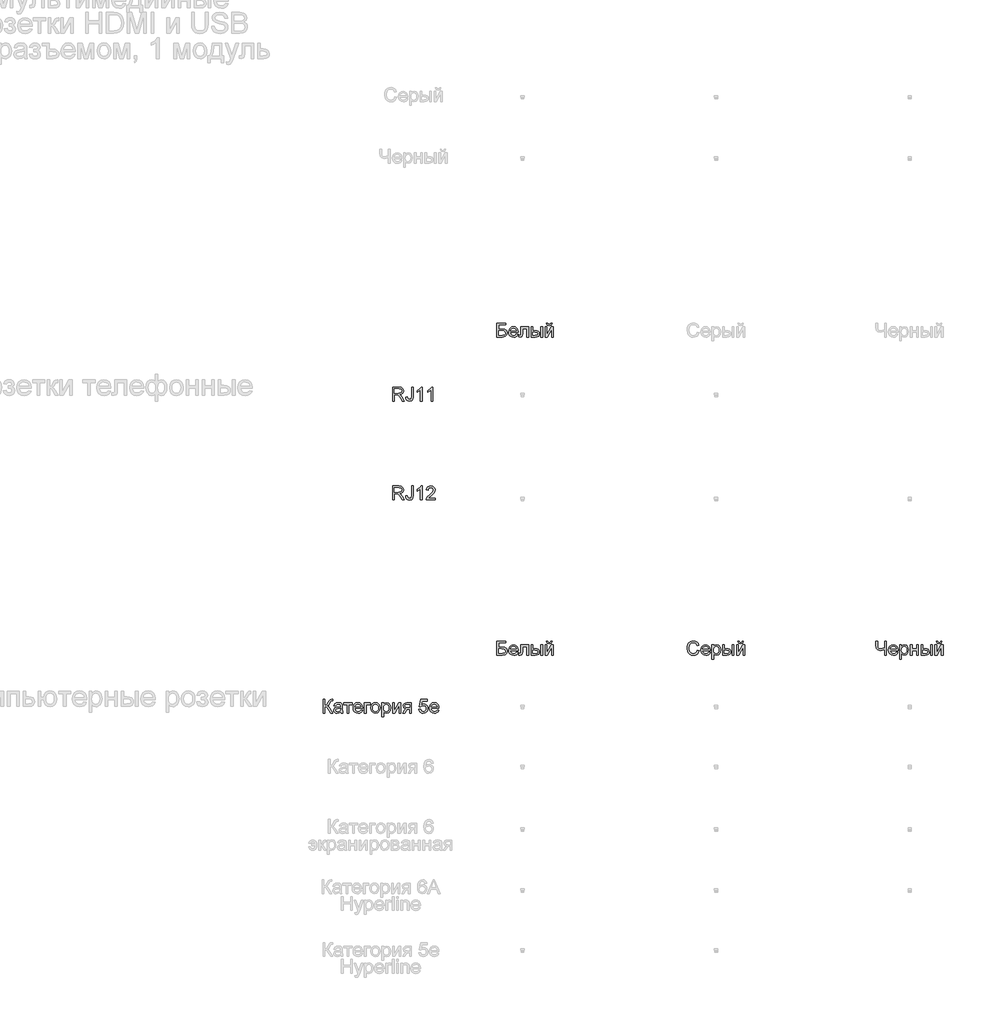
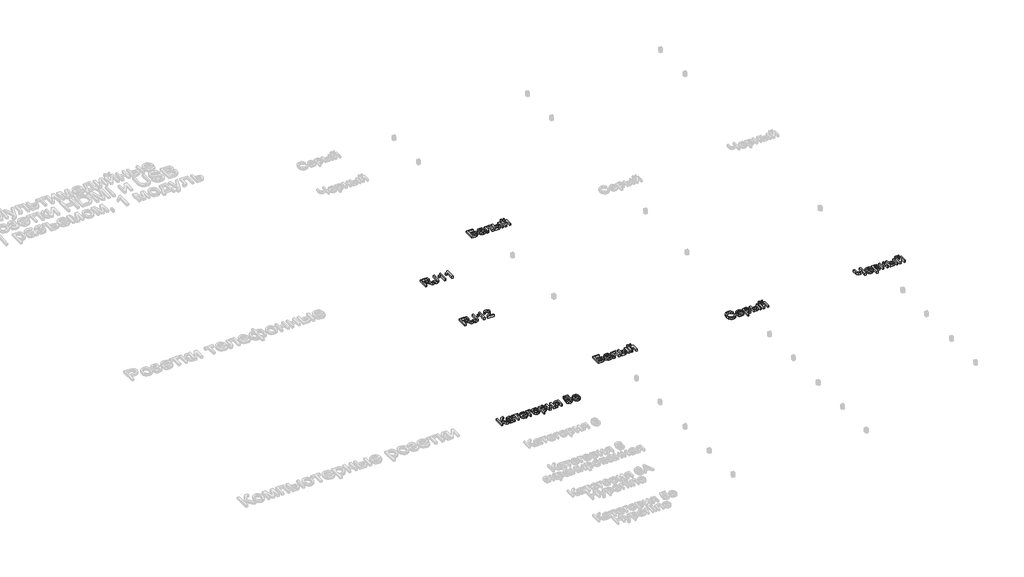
# One storey, part 9 of 15: 7 proxies.
"""IFC4 building model written with IfcOpenShell, lengths in millimetres."""

from ifc_helpers import new_model, si_unit, origin, origin_with_axes, place, context, project, spatial, polyline, outline, extrude, element, save

model = new_model("IFC4")

# Units and contexts
model_context = context("Model", 3, world=origin())
ifc_project = project(units=[si_unit("LENGTHUNIT", "METRE", prefix="MILLI")], contexts=[model_context])

# Site, building, storey
site = spatial("IfcSite", under=ifc_project)
building = spatial("IfcBuilding", under=site)
storey = spatial("IfcBuildingStorey", under=building, Name="Этаж 01", Elevation=0.0)

# Proxies
placement = place(None, origin())
element("IfcBuildingElementProxy", 1, Name="100 мм Arial", ObjectType="100 мм Arial", at=placement, inside=storey, context=model_context, shape_type="SweptSolid", body=[
    extrude(outline(polyline([(570.3723985, -3447.9269144), (570.3723985, -3347.4706043), (613.6598466, -3347.4706043), (633.7584663, -3350.1806683), (644.7458752, -3359.7701257), (648.8538908, -3374.9636521), (647.1524366, -3384.8596777), (642.0480739, -3393.0634462), (633.3875186, -3399.0783168), (621.0174865, -3402.4076489), (628.1543972, -3407.778726), (638.3324657, -3420.7036468), (655.0833592, -3447.9269144), (640.4907068, -3447.9269144), (627.4186332, -3427.1047935), (617.9763287, -3413.3214814), (611.34219, -3406.8099701), (605.370239, -3404.4187371), (598.0861755, -3403.9772788), (582.9294373, -3403.9772788), (582.9294373, -3447.9269144), (570.3723985, -3447.9269144)]), holes=[polyline([(582.9294373, -3391.42024), (611.0356217, -3391.42024), (625.3707568, -3389.6421437), (633.5132116, -3383.9522355), (636.296852, -3375.4296359), (630.9870886, -3364.3686506), (614.1994068, -3360.0276431), (582.9294373, -3360.0276431), (582.9294373, -3391.42024)])]), origin_with_axes(), (0.0, 0.0, 1.0), 20.0),
    extrude(outline(polyline([(664.5501892, -3419.7226281), (677.107228, -3418.1039474), (681.3991846, -3432.9418545), (691.9941861, -3436.9395055), (700.590362, -3434.6708999), (705.5690317, -3428.4904824), (706.9301951, -3416.0438082), (706.9301951, -3347.4706043), (719.4872339, -3347.4706043), (719.4872339, -3415.823079), (716.4583388, -3435.3330875), (706.844356, -3445.8667753), (691.4055749, -3449.4965443), (679.7988979, -3447.6234118), (671.270167, -3442.0040143), (666.0952936, -3432.6874028), (664.5501892, -3419.7226281)])), origin_with_axes(), (0.0, 0.0, 1.0), 20.0),
    extrude(outline(polyline([(783.8420576, -3447.9269144), (771.2850188, -3447.9269144), (771.2850188, -3369.6416259), (759.3901676, -3378.1151745), (746.1709412, -3384.4550075), (746.1709412, -3372.5846818), (764.5773037, -3360.8369835), (775.7486537, -3347.4706043), (783.8420576, -3347.4706043), (783.8420576, -3447.9269144)])), origin_with_axes(), (0.0, 0.0, 1.0), 20.0),
    extrude(outline(polyline([(860.75392, -3447.9269144), (848.1968812, -3447.9269144), (848.1968812, -3369.6416259), (836.3020301, -3378.1151745), (823.0828037, -3384.4550075), (823.0828037, -3372.5846818), (841.4891662, -3360.8369835), (852.6605161, -3347.4706043), (860.75392, -3347.4706043), (860.75392, -3447.9269144)])), origin_with_axes(), (0.0, 0.0, 1.0), 20.0),
])
element("IfcBuildingElementProxy", 2, Name="100 мм Arial", ObjectType="100 мм Arial", at=placement, inside=storey, context=model_context, shape_type="SweptSolid", body=[
    extrude(outline(polyline([(570.3723985, -4162.9269144), (570.3723985, -4062.4706043), (613.6598466, -4062.4706043), (633.7584663, -4065.1806683), (644.7458752, -4074.7701257), (648.8538908, -4089.9636521), (647.1524366, -4099.8596777), (642.0480739, -4108.0634462), (633.3875186, -4114.0783168), (621.0174865, -4117.4076489), (628.1543972, -4122.778726), (638.3324657, -4135.7036468), (655.0833592, -4162.9269144), (640.4907068, -4162.9269144), (627.4186332, -4142.1047935), (617.9763287, -4128.3214814), (611.34219, -4121.8099701), (605.370239, -4119.4187371), (598.0861755, -4118.9772788), (582.9294373, -4118.9772788), (582.9294373, -4162.9269144), (570.3723985, -4162.9269144)]), holes=[polyline([(582.9294373, -4106.42024), (611.0356217, -4106.42024), (625.3707568, -4104.6421437), (633.5132116, -4098.9522355), (636.296852, -4090.4296359), (630.9870886, -4079.3686506), (614.1994068, -4075.0276431), (582.9294373, -4075.0276431), (582.9294373, -4106.42024)])]), origin_with_axes(), (0.0, 0.0, 1.0), 20.0),
    extrude(outline(polyline([(664.5501892, -4134.7226281), (677.107228, -4133.1039474), (681.3991846, -4147.9418545), (691.9941861, -4151.9395055), (700.590362, -4149.6708999), (705.5690317, -4143.4904824), (706.9301951, -4131.0438082), (706.9301951, -4062.4706043), (719.4872339, -4062.4706043), (719.4872339, -4130.823079), (716.4583388, -4150.3330875), (706.844356, -4160.8667753), (691.4055749, -4164.4965443), (679.7988979, -4162.6234118), (671.270167, -4157.0040143), (666.0952936, -4147.6874028), (664.5501892, -4134.7226281)])), origin_with_axes(), (0.0, 0.0, 1.0), 20.0),
    extrude(outline(polyline([(783.8420576, -4162.9269144), (771.2850188, -4162.9269144), (771.2850188, -4084.6416259), (759.3901676, -4093.1151745), (746.1709412, -4099.4550075), (746.1709412, -4087.5846818), (764.5773037, -4075.8369835), (775.7486537, -4062.4706043), (783.8420576, -4062.4706043), (783.8420576, -4162.9269144)])), origin_with_axes(), (0.0, 0.0, 1.0), 20.0),
    extrude(outline(polyline([(878.0198483, -4150.3698757), (878.0198483, -4162.9269144), (812.0953948, -4162.9269144), (813.4442954, -4154.2694248), (821.0717155, -4140.9398339), (836.7925394, -4126.3839696), (858.4730516, -4105.4637468), (863.8931797, -4091.2389763), (858.77962, -4079.7242699), (845.4255035, -4075.0276431), (831.5073014, -4079.6139053), (826.2220634, -4092.2935714), (813.6650246, -4090.7239415), (816.7092481, -4078.5777043), (823.2912702, -4069.7056169), (833.0677342, -4064.2793574), (845.6952837, -4062.4706043), (858.4148037, -4064.4816925), (868.1728736, -4070.5149573), (874.3808822, -4079.5280661), (876.4502185, -4090.4786869), (874.218401, -4102.3858008), (866.7994475, -4114.6975849), (848.8100179, -4131.9021995), (834.3645182, -4143.9809917), (828.6991355, -4150.3698757), (878.0198483, -4150.3698757)])), origin_with_axes(), (0.0, 0.0, 1.0), 20.0),
])
element("IfcBuildingElementProxy", 3, Name="100 мм Arial", ObjectType="100 мм Arial", at=placement, inside=storey, context=model_context, shape_type="SweptSolid", body=[
    extrude(outline(polyline([(1324.163946, -2884.9427834), (1386.9491399, -2884.9427834), (1386.9491399, -2897.4998222), (1336.7209848, -2897.4998222), (1336.7209848, -2927.3227893), (1360.240907, -2927.3227893), (1380.9649261, -2929.8734378), (1393.3012356, -2939.511946), (1397.9365488, -2955.9930594), (1394.6378736, -2970.303669), (1384.7908988, -2981.1807134), (1362.4972499, -2985.3990936), (1324.163946, -2985.3990936), (1324.163946, -2884.9427834)]), holes=[polyline([(1336.7209848, -2972.8420548), (1363.6254214, -2972.8420548), (1379.9348565, -2968.697251), (1384.0183466, -2963.5162462), (1385.37951, -2956.2628396), (1382.2647758, -2946.4281275), (1373.5950234, -2941.1796778), (1354.6736262, -2939.879828), (1336.7209848, -2939.879828), (1336.7209848, -2972.8420548)])]), origin_with_axes(), (0.0, 0.0, 1.0), 20.0),
    extrude(outline(polyline([(1465.2834794, -2963.4242757), (1477.5952635, -2964.9939056), (1473.1592198, -2974.2706632), (1466.080557, -2981.2052388), (1456.5186908, -2985.5278523), (1444.6330367, -2986.9687234), (1429.8993628, -2984.4824543), (1418.562466, -2977.0236468), (1411.3335848, -2965.076679), (1408.9239577, -2949.1259288), (1411.3581102, -2932.6386841), (1418.6605678, -2920.3085059), (1429.8441805, -2912.6197722), (1443.9217982, -2910.056861), (1457.5610232, -2912.6136408), (1468.4595273, -2920.2839804), (1475.605635, -2932.5896332), (1477.9876709, -2949.0523524), (1477.9140945, -2952.4368668), (1421.4809965, -2952.4368668), (1423.6545659, -2961.8362518), (1428.7037463, -2968.7463019), (1435.9908755, -2972.995339), (1444.8782914, -2974.4116846), (1457.1900755, -2971.7874598), (1465.2834794, -2963.4242757)]), holes=[polyline([(1421.4809965, -2939.879828), (1465.4306322, -2939.879828), (1460.4029116, -2928.5000117), (1453.0820599, -2924.0854277), (1443.8727473, -2922.6138997), (1428.4094407, -2927.3105265), (1423.5442013, -2932.8011653), (1421.4809965, -2939.879828)])]), origin_with_axes(), (0.0, 0.0, 1.0), 20.0),
    extrude(outline(polyline([(1496.8232291, -2911.6264908), (1553.3299035, -2911.6264908), (1553.3299035, -2985.3255172), (1540.7728648, -2985.3255172), (1540.7728648, -2924.1835296), (1509.3802679, -2924.1835296), (1509.3802679, -2959.3775738), (1508.5341393, -2975.6134325), (1503.8865634, -2982.4683003), (1492.8991545, -2985.3990936), (1482.6965605, -2984.7614314), (1482.6965605, -2972.8420548), (1488.3128923, -2972.8420548), (1493.9905377, -2972.0695026), (1496.2591434, -2969.616956), (1496.8232291, -2958.6663353), (1496.8232291, -2911.6264908)])), origin_with_axes(), (0.0, 0.0, 1.0), 20.0),
    extrude(outline(polyline([(1641.2291749, -2911.6264908), (1653.7862137, -2911.6264908), (1653.7862137, -2985.3990936), (1641.2291749, -2985.3990936), (1641.2291749, -2911.6264908)])), origin_with_axes(), (0.0, 0.0, 1.0), 20.0),
    extrude(outline(polyline([(1572.1654617, -2911.6264908), (1584.7225005, -2911.6264908), (1584.7225005, -2938.3101982), (1600.2471207, -2938.3101982), (1613.6656164, -2939.8828937), (1623.6076274, -2944.6009803), (1629.7604537, -2952.0843132), (1631.8113959, -2961.9527477), (1630.0915475, -2970.9382655), (1624.9320025, -2978.5197003), (1615.9955357, -2983.6792452), (1602.944922, -2985.3990936), (1572.1654617, -2985.3990936), (1572.1654617, -2911.6264908)]), holes=[polyline([(1584.7225005, -2972.8420548), (1597.6228958, -2972.8420548), (1614.2756874, -2970.2055672), (1619.2543571, -2961.9772732), (1615.5632744, -2954.2517513), (1599.266102, -2950.867237), (1584.7225005, -2950.867237), (1584.7225005, -2972.8420548)])]), origin_with_axes(), (0.0, 0.0, 1.0), 20.0),
    extrude(outline(polyline([(1672.6217719, -2911.6264908), (1685.1788106, -2911.6264908), (1685.1788106, -2967.8879106), (1716.0318473, -2911.6264908), (1732.267706, -2911.6264908), (1732.267706, -2985.3990936), (1719.7106672, -2985.3990936), (1719.7106672, -2929.4810303), (1689.0538343, -2985.3990936), (1672.6217719, -2985.3990936), (1672.6217719, -2911.6264908)])), origin_with_axes(), (0.0, 0.0, 1.0), 20.0),
    extrude(outline(polyline([(1713.4321479, -2884.9427834), (1722.8499269, -2884.9427834), (1716.7553485, -2898.9100365), (1703.2295539, -2903.7783416), (1688.5878504, -2898.9468247), (1682.0395509, -2884.9427834), (1691.45733, -2884.9427834), (1694.9889972, -2892.0183805), (1702.1013824, -2894.3605625), (1709.9004807, -2892.0919569), (1713.4321479, -2884.9427834)])), origin_with_axes(), (0.0, 0.0, 1.0), 20.0),
])
element("IfcBuildingElementProxy", 4, Name="100 мм Arial", ObjectType="100 мм Arial", at=placement, inside=storey, context=model_context, shape_type="SweptSolid", body=[
    extrude(outline(polyline([(67.4593993, -5603.8364021), (80.016438, -5603.8364021), (80.016438, -5647.7860378), (94.0572675, -5644.4628371), (103.8551913, -5627.6506299), (110.7836356, -5613.6098004), (118.6317848, -5606.6568307), (129.8521856, -5603.8364021), (138.0927423, -5603.9835549), (138.0927423, -5616.5405937), (135.3213646, -5616.4670173), (132.5499869, -5616.3934409), (122.7398004, -5619.4100732), (115.2840586, -5632.334994), (106.3935771, -5648.0803434), (97.7238247, -5653.2797423), (107.4175153, -5658.9573877), (116.9763158, -5670.7909252), (138.0927423, -5704.2927123), (123.5246153, -5704.2927123), (105.6700758, -5675.9903241), (93.1007743, -5661.2137306), (80.016438, -5657.2038169), (80.016438, -5704.2927123), (67.4593993, -5704.2927123), (67.4593993, -5603.8364021)])), origin_with_axes(), (0.0, 0.0, 1.0), 20.0),
    extrude(outline(polyline([(194.5994168, -5694.8749332), (182.4225228, -5703.38527), (168.9703045, -5705.8623421), (158.4764706, -5704.37242), (150.7356202, -5699.9026538), (145.9623514, -5693.115231), (144.3712617, -5684.6723392), (146.7747574, -5674.7395253), (153.090065, -5667.5290382), (161.8824447, -5663.4087599), (172.7472263, -5661.520299), (194.5258404, -5657.2038169), (194.5994168, -5654.4079137), (191.141326, -5645.1372874), (177.2599121, -5641.5075184), (164.5557205, -5643.9232768), (158.4979303, -5652.4949273), (145.9408916, -5650.9252975), (151.3732824, -5638.6625643), (162.3116404, -5631.4766027), (178.8785929, -5628.9504796), (194.0966447, -5631.1822971), (202.6928207, -5636.7863661), (206.5433189, -5645.3089657), (207.1564556, -5656.2963746), (207.1564556, -5671.9190967), (207.7941177, -5693.734499), (210.2957153, -5704.2927123), (197.7386765, -5704.2927123), (194.5994168, -5694.8749332)]), holes=[polyline([(194.5994168, -5669.7608556), (174.3413816, -5673.6113539), (163.5379137, -5675.6469676), (158.6450831, -5678.9579055), (156.9283005, -5683.7894224), (160.6684341, -5690.5829766), (171.6435803, -5693.3053033), (184.3477719, -5690.3009337), (192.5392776, -5683.0291329), (194.5258404, -5673.3170483), (194.5994168, -5669.7608556)])]), origin_with_axes(), (0.0, 0.0, 1.0), 20.0),
    extrude(outline(polyline([(218.1438645, -5630.5201095), (277.7897986, -5630.5201095), (277.7897986, -5643.0771483), (254.2453509, -5643.0771483), (254.2453509, -5704.2927123), (241.6883122, -5704.2927123), (241.6883122, -5643.0771483), (218.1438645, -5643.0771483), (218.1438645, -5630.5201095)])), origin_with_axes(), (0.0, 0.0, 1.0), 20.0),
    extrude(outline(polyline([(340.4278397, -5682.3178944), (352.7396238, -5683.8875243), (348.3035801, -5693.1642819), (341.2249173, -5700.0988575), (331.6630511, -5704.421471), (319.777397, -5705.8623421), (305.0437231, -5703.376073), (293.7068263, -5695.9172655), (286.4779451, -5683.9702977), (284.068318, -5668.0195475), (286.5024706, -5651.5323028), (293.8049282, -5639.2021246), (304.9885408, -5631.5133909), (319.0661585, -5628.9504796), (332.7053835, -5631.5072595), (343.6038876, -5639.1775991), (350.7499953, -5651.4832519), (353.1320313, -5667.9459711), (353.0584549, -5671.3304855), (296.6253568, -5671.3304855), (298.7989262, -5680.7298705), (303.8481066, -5687.6399206), (311.1352358, -5691.8889577), (320.0226517, -5693.3053033), (332.3344358, -5690.6810784), (340.4278397, -5682.3178944)]), holes=[polyline([(296.6253568, -5658.7734467), (340.5749925, -5658.7734467), (335.5472719, -5647.3936303), (328.2264202, -5642.9790464), (319.0171076, -5641.5075184), (303.553801, -5646.2041452), (298.6885616, -5651.694784), (296.6253568, -5658.7734467)])]), origin_with_axes(), (0.0, 0.0, 1.0), 20.0),
    extrude(outline(polyline([(365.68907, -5630.5201095), (406.499446, -5630.5201095), (406.499446, -5643.0771483), (378.2461088, -5643.0771483), (378.2461088, -5704.2927123), (365.68907, -5704.2927123), (365.68907, -5630.5201095)])), origin_with_axes(), (0.0, 0.0, 1.0), 20.0),
    extrude(outline(polyline([(412.7779654, -5667.4064109), (415.4941608, -5649.6193164), (423.642747, -5637.1174599), (433.7104509, -5630.9922247), (445.7647176, -5628.9504796), (458.9563528, -5631.4367488), (469.4931063, -5638.8955562), (476.4000908, -5650.7382908), (478.7024189, -5666.3763413), (474.6311915, -5688.7190411), (462.7731285, -5701.361919), (445.7647176, -5705.8623421), (432.4136669, -5703.38527), (421.8891762, -5695.9540537), (415.0557681, -5683.8629988), (412.7779654, -5667.4064109)]), holes=[polyline([(425.3350042, -5667.3818854), (426.7881381, -5678.7463734), (431.1475397, -5686.842843), (437.7081019, -5691.6896882), (445.7647176, -5693.3053033), (453.7845451, -5691.6804912), (460.3328446, -5686.8060548), (464.6922463, -5678.6022863), (466.1453802, -5666.9894779), (464.6830492, -5655.9560838), (460.2960564, -5647.9699788), (453.7385599, -5643.1231335), (445.7647176, -5641.5075184), (437.7081019, -5643.1170021), (431.1475397, -5647.9454533), (426.7881381, -5656.0235288), (425.3350042, -5667.3818854)])]), origin_with_axes(), (0.0, 0.0, 1.0), 20.0),
    extrude(outline(polyline([(492.8290876, -5732.5460495), (492.8290876, -5630.5201095), (505.3861263, -5630.5201095), (505.3861263, -5642.8318936), (514.0681414, -5632.4208331), (525.7913143, -5628.9504796), (541.708342, -5633.806522), (552.1071397, -5647.4917322), (555.6142814, -5666.8423251), (551.6534186, -5687.1861995), (540.1509749, -5701.043088), (524.2707354, -5705.8623421), (513.3446402, -5702.6372433), (505.3861263, -5694.4825257), (505.3861263, -5732.5460495), (492.8290876, -5732.5460495)]), holes=[polyline([(505.3861263, -5667.9950221), (506.744224, -5679.2522111), (510.8185171, -5687.1248858), (516.8303221, -5691.760199), (524.0009553, -5693.3053033), (531.2880845, -5691.7050167), (537.4531736, -5686.9041566), (541.6562254, -5678.7433077), (543.0572426, -5667.0630543), (541.6899479, -5655.867179), (537.5880636, -5647.8841397), (531.5854557, -5643.1016737), (524.5159901, -5641.5075184), (517.4189332, -5643.2028413), (511.1863991, -5648.2888099), (506.8361945, -5656.6060086), (505.3861263, -5667.9950221)])]), origin_with_axes(), (0.0, 0.0, 1.0), 20.0),
    extrude(outline(polyline([(569.74095, -5630.5201095), (582.2979888, -5630.5201095), (582.2979888, -5686.7815293), (613.1510254, -5630.5201095), (629.3868842, -5630.5201095), (629.3868842, -5704.2927123), (616.8298454, -5704.2927123), (616.8298454, -5648.374649), (586.1730125, -5704.2927123), (569.74095, -5704.2927123), (569.74095, -5630.5201095)])), origin_with_axes(), (0.0, 0.0, 1.0), 20.0),
    extrude(outline(polyline([(704.7291168, -5630.5201095), (704.7291168, -5704.2927123), (692.172078, -5704.2927123), (692.172078, -5676.039375), (685.3294729, -5676.039375), (676.0097957, -5677.6335303), (667.2542042, -5688.3511591), (657.2478139, -5704.2927123), (642.7287379, -5704.2927123), (655.3348276, -5684.1327789), (666.0279309, -5673.6849303), (657.4440177, -5671.054574), (651.4107529, -5666.0575102), (646.6528125, -5651.8327397), (648.2776246, -5643.2365638), (653.1520611, -5636.4307469), (661.1044435, -5631.9977688), (671.9630937, -5630.5201095), (704.7291168, -5630.5201095)]), holes=[polyline([(692.172078, -5643.0771483), (675.6173882, -5643.0771483), (662.2142209, -5645.983416), (659.2098512, -5652.7892329), (663.6366979, -5660.8948996), (679.3207336, -5663.4823363), (692.172078, -5663.4823363), (692.172078, -5643.0771483)])]), origin_with_axes(), (0.0, 0.0, 1.0), 20.0),
    extrude(outline(polyline([(759.6661614, -5677.6090049), (772.2232002, -5676.039375), (778.5507705, -5688.9765585), (791.671895, -5693.3053033), (800.6727411, -5691.8000528), (807.4172444, -5687.2843013), (811.6294932, -5680.279215), (813.0335762, -5671.30596), (807.7728636, -5656.3944765), (801.1663161, -5652.2925922), (791.8680987, -5650.9252975), (780.8439016, -5653.108064), (773.79283, -5658.7734467), (761.2357912, -5657.2038169), (772.2232002, -5605.406032), (820.8817254, -5605.406032), (820.8817254, -5617.9630707), (782.3767432, -5617.9630707), (777.0056661, -5645.6277968), (785.9758554, -5640.1831432), (795.3752404, -5638.3682587), (807.1076103, -5640.6184703), (816.8472862, -5647.3691049), (823.4047827, -5657.657538), (825.5906149, -5670.5211451), (823.6224462, -5683.0781839), (817.7179402, -5693.8203381), (806.4117002, -5702.8518411), (791.622844, -5705.8623421), (779.2896001, -5703.9278959), (769.4640852, -5698.1245575), (762.728779, -5689.126777), (759.6661614, -5677.6090049)])), origin_with_axes(), (0.0, 0.0, 1.0), 20.0),
    extrude(outline(polyline([(891.3679157, -5682.3178944), (903.6796998, -5683.8875243), (899.243656, -5693.1642819), (892.1649933, -5700.0988575), (882.6031271, -5704.421471), (870.717473, -5705.8623421), (855.9837991, -5703.376073), (844.6469023, -5695.9172655), (837.4180211, -5683.9702977), (835.008394, -5668.0195475), (837.4425465, -5651.5323028), (844.7450041, -5639.2021246), (855.9286168, -5631.5133909), (870.0062345, -5628.9504796), (883.6454594, -5631.5072595), (894.5439636, -5639.1775991), (901.6900713, -5651.4832519), (904.0721072, -5667.9459711), (903.9985308, -5671.3304855), (847.5654328, -5671.3304855), (849.7390022, -5680.7298705), (854.7881826, -5687.6399206), (862.0753118, -5691.8889577), (870.9627277, -5693.3053033), (883.2745118, -5690.6810784), (891.3679157, -5682.3178944)]), holes=[polyline([(847.5654328, -5658.7734467), (891.5150685, -5658.7734467), (886.4873479, -5647.3936303), (879.1664962, -5642.9790464), (869.9571835, -5641.5075184), (854.493877, -5646.2041452), (849.6286376, -5651.694784), (847.5654328, -5658.7734467)])]), origin_with_axes(), (0.0, 0.0, 1.0), 20.0),
])
element("IfcBuildingElementProxy", 5, Name="100 мм Arial", ObjectType="100 мм Arial", at=placement, inside=storey, context=model_context, shape_type="SweptSolid", body=[
    extrude(outline(polyline([(1324.163946, -5184.9427834), (1386.9491399, -5184.9427834), (1386.9491399, -5197.4998222), (1336.7209848, -5197.4998222), (1336.7209848, -5227.3227893), (1360.240907, -5227.3227893), (1380.9649261, -5229.8734378), (1393.3012356, -5239.511946), (1397.9365488, -5255.9930594), (1394.6378736, -5270.303669), (1384.7908988, -5281.1807134), (1362.4972499, -5285.3990936), (1324.163946, -5285.3990936), (1324.163946, -5184.9427834)]), holes=[polyline([(1336.7209848, -5272.8420548), (1363.6254214, -5272.8420548), (1379.9348565, -5268.697251), (1384.0183466, -5263.5162462), (1385.37951, -5256.2628396), (1382.2647758, -5246.4281275), (1373.5950234, -5241.1796778), (1354.6736262, -5239.879828), (1336.7209848, -5239.879828), (1336.7209848, -5272.8420548)])]), origin_with_axes(), (0.0, 0.0, 1.0), 20.0),
    extrude(outline(polyline([(1465.2834794, -5263.4242757), (1477.5952635, -5264.9939056), (1473.1592198, -5274.2706632), (1466.080557, -5281.2052388), (1456.5186908, -5285.5278523), (1444.6330367, -5286.9687234), (1429.8993628, -5284.4824543), (1418.562466, -5277.0236468), (1411.3335848, -5265.076679), (1408.9239577, -5249.1259288), (1411.3581102, -5232.6386841), (1418.6605678, -5220.3085059), (1429.8441805, -5212.6197722), (1443.9217982, -5210.056861), (1457.5610232, -5212.6136408), (1468.4595273, -5220.2839804), (1475.605635, -5232.5896332), (1477.9876709, -5249.0523524), (1477.9140945, -5252.4368668), (1421.4809965, -5252.4368668), (1423.6545659, -5261.8362518), (1428.7037463, -5268.7463019), (1435.9908755, -5272.995339), (1444.8782914, -5274.4116846), (1457.1900755, -5271.7874598), (1465.2834794, -5263.4242757)]), holes=[polyline([(1421.4809965, -5239.879828), (1465.4306322, -5239.879828), (1460.4029116, -5228.5000117), (1453.0820599, -5224.0854277), (1443.8727473, -5222.6138997), (1428.4094407, -5227.3105265), (1423.5442013, -5232.8011653), (1421.4809965, -5239.879828)])]), origin_with_axes(), (0.0, 0.0, 1.0), 20.0),
    extrude(outline(polyline([(1496.8232291, -5211.6264908), (1553.3299035, -5211.6264908), (1553.3299035, -5285.3255172), (1540.7728648, -5285.3255172), (1540.7728648, -5224.1835296), (1509.3802679, -5224.1835296), (1509.3802679, -5259.3775738), (1508.5341393, -5275.6134325), (1503.8865634, -5282.4683003), (1492.8991545, -5285.3990936), (1482.6965605, -5284.7614314), (1482.6965605, -5272.8420548), (1488.3128923, -5272.8420548), (1493.9905377, -5272.0695026), (1496.2591434, -5269.616956), (1496.8232291, -5258.6663353), (1496.8232291, -5211.6264908)])), origin_with_axes(), (0.0, 0.0, 1.0), 20.0),
    extrude(outline(polyline([(1641.2291749, -5211.6264908), (1653.7862137, -5211.6264908), (1653.7862137, -5285.3990936), (1641.2291749, -5285.3990936), (1641.2291749, -5211.6264908)])), origin_with_axes(), (0.0, 0.0, 1.0), 20.0),
    extrude(outline(polyline([(1572.1654617, -5211.6264908), (1584.7225005, -5211.6264908), (1584.7225005, -5238.3101982), (1600.2471207, -5238.3101982), (1613.6656164, -5239.8828937), (1623.6076274, -5244.6009803), (1629.7604537, -5252.0843132), (1631.8113959, -5261.9527477), (1630.0915475, -5270.9382655), (1624.9320025, -5278.5197003), (1615.9955357, -5283.6792452), (1602.944922, -5285.3990936), (1572.1654617, -5285.3990936), (1572.1654617, -5211.6264908)]), holes=[polyline([(1584.7225005, -5272.8420548), (1597.6228958, -5272.8420548), (1614.2756874, -5270.2055672), (1619.2543571, -5261.9772732), (1615.5632744, -5254.2517513), (1599.266102, -5250.867237), (1584.7225005, -5250.867237), (1584.7225005, -5272.8420548)])]), origin_with_axes(), (0.0, 0.0, 1.0), 20.0),
    extrude(outline(polyline([(1672.6217719, -5211.6264908), (1685.1788106, -5211.6264908), (1685.1788106, -5267.8879106), (1716.0318473, -5211.6264908), (1732.267706, -5211.6264908), (1732.267706, -5285.3990936), (1719.7106672, -5285.3990936), (1719.7106672, -5229.4810303), (1689.0538343, -5285.3990936), (1672.6217719, -5285.3990936), (1672.6217719, -5211.6264908)])), origin_with_axes(), (0.0, 0.0, 1.0), 20.0),
    extrude(outline(polyline([(1713.4321479, -5184.9427834), (1722.8499269, -5184.9427834), (1716.7553485, -5198.9100365), (1703.2295539, -5203.7783416), (1688.5878504, -5198.9468247), (1682.0395509, -5184.9427834), (1691.45733, -5184.9427834), (1694.9889972, -5192.0183805), (1702.1013824, -5194.3605625), (1709.9004807, -5192.0919569), (1713.4321479, -5184.9427834)])), origin_with_axes(), (0.0, 0.0, 1.0), 20.0),
])
element("IfcBuildingElementProxy", 6, Name="100 мм Arial", ObjectType="100 мм Arial", at=placement, inside=storey, context=model_context, shape_type="SweptSolid", body=[
    extrude(outline(polyline([(2773.9900999, -5249.6900146), (2786.5471386, -5252.9273761), (2780.7529972, -5267.5598825), (2771.6601806, -5278.2499201), (2759.7162785, -5284.7890226), (2745.3688806, -5286.9687234), (2730.8038193, -5285.3193858), (2719.2369963, -5280.371373), (2710.3710402, -5272.2963632), (2703.9085798, -5261.2660347), (2698.6478673, -5234.410649), (2700.1347237, -5219.7628143), (2704.5952928, -5207.113805), (2711.7965829, -5196.8652257), (2721.5056019, -5189.418681), (2733.0203083, -5184.8845354), (2745.6386608, -5183.3731536), (2759.4066444, -5185.3290595), (2770.7895265, -5191.1967773), (2779.4316877, -5200.6145564), (2784.9775088, -5213.2206461), (2772.42047, -5216.212753), (2762.1197742, -5200.7739719), (2745.1481514, -5195.9301923), (2725.5032529, -5201.3012695), (2714.4054794, -5215.7222437), (2711.204906, -5234.3861236), (2714.9940906, -5256.0175849), (2726.7908399, -5269.8376852), (2744.1180819, -5274.4116846), (2754.599653, -5272.8543175), (2763.3337847, -5268.1822162), (2769.9280695, -5260.4444316), (2773.9900999, -5249.6900146)])), origin_with_axes(), (0.0, 0.0, 1.0), 20.0),
    extrude(outline(polyline([(2853.8940692, -5263.4242757), (2866.2058533, -5264.9939056), (2861.7698096, -5274.2706632), (2854.6911469, -5281.2052388), (2845.1292807, -5285.5278523), (2833.2436266, -5286.9687234), (2818.5099527, -5284.4824543), (2807.1730558, -5277.0236468), (2799.9441746, -5265.076679), (2797.5345476, -5249.1259288), (2799.9687001, -5232.6386841), (2807.2711577, -5220.3085059), (2818.4547704, -5212.6197722), (2832.532388, -5210.056861), (2846.171613, -5212.6136408), (2857.0701171, -5220.2839804), (2864.2162249, -5232.5896332), (2866.5982608, -5249.0523524), (2866.5246844, -5252.4368668), (2810.0915863, -5252.4368668), (2812.2651558, -5261.8362518), (2817.3143362, -5268.7463019), (2824.6014654, -5272.995339), (2833.4888812, -5274.4116846), (2845.8006653, -5271.7874598), (2853.8940692, -5263.4242757)]), holes=[polyline([(2810.0915863, -5239.879828), (2854.041222, -5239.879828), (2849.0135014, -5228.5000117), (2841.6926497, -5224.0854277), (2832.4833371, -5222.6138997), (2817.0200306, -5227.3105265), (2812.1547912, -5232.8011653), (2810.0915863, -5239.879828)])]), origin_with_axes(), (0.0, 0.0, 1.0), 20.0),
    extrude(outline(polyline([(2879.1552996, -5313.6524308), (2879.1552996, -5211.6264908), (2891.7123383, -5211.6264908), (2891.7123383, -5223.9382749), (2900.3943534, -5213.5272144), (2912.1175263, -5210.056861), (2928.034554, -5214.9129033), (2938.4333517, -5228.5981135), (2941.9404934, -5247.9487065), (2937.9796306, -5268.2925808), (2926.4771869, -5282.1494693), (2910.5969474, -5286.9687234), (2899.6708522, -5283.7436246), (2891.7123383, -5275.588907), (2891.7123383, -5313.6524308), (2879.1552996, -5313.6524308)]), holes=[polyline([(2891.7123383, -5249.1014034), (2893.070436, -5260.3585924), (2897.1447291, -5268.2312671), (2903.1565341, -5272.8665803), (2910.3271673, -5274.4116846), (2917.6142965, -5272.811398), (2923.7793856, -5268.0105379), (2927.9824374, -5259.849689), (2929.3834546, -5248.1694357), (2928.0161599, -5236.9735603), (2923.9142756, -5228.990521), (2917.9116677, -5224.208055), (2910.8422021, -5222.6138997), (2903.7451453, -5224.3092226), (2897.5126111, -5229.3951912), (2893.1624065, -5237.7123899), (2891.7123383, -5249.1014034)])]), origin_with_axes(), (0.0, 0.0, 1.0), 20.0),
    extrude(outline(polyline([(3025.1308752, -5211.6264908), (3037.687914, -5211.6264908), (3037.687914, -5285.3990936), (3025.1308752, -5285.3990936), (3025.1308752, -5211.6264908)])), origin_with_axes(), (0.0, 0.0, 1.0), 20.0),
    extrude(outline(polyline([(2956.067162, -5211.6264908), (2968.6242008, -5211.6264908), (2968.6242008, -5238.3101982), (2984.148821, -5238.3101982), (2997.5673168, -5239.8828937), (3007.5093277, -5244.6009803), (3013.662154, -5252.0843132), (3015.7130962, -5261.9527477), (3013.9932478, -5270.9382655), (3008.8337029, -5278.5197003), (2999.8972361, -5283.6792452), (2986.8466223, -5285.3990936), (2956.067162, -5285.3990936), (2956.067162, -5211.6264908)]), holes=[polyline([(2968.6242008, -5272.8420548), (2981.5245961, -5272.8420548), (2998.1773877, -5270.2055672), (3003.1560574, -5261.9772732), (2999.4649747, -5254.2517513), (2983.1678023, -5250.867237), (2968.6242008, -5250.867237), (2968.6242008, -5272.8420548)])]), origin_with_axes(), (0.0, 0.0, 1.0), 20.0),
    extrude(outline(polyline([(3097.3338482, -5184.9427834), (3106.7516272, -5184.9427834), (3100.6570489, -5198.9100365), (3087.1312542, -5203.7783416), (3072.4895508, -5198.9468247), (3065.9412512, -5184.9427834), (3075.3590303, -5184.9427834), (3078.8906975, -5192.0183805), (3086.0030827, -5194.3605625), (3093.802181, -5192.0919569), (3097.3338482, -5184.9427834)])), origin_with_axes(), (0.0, 0.0, 1.0), 20.0),
    extrude(outline(polyline([(3056.5234722, -5211.6264908), (3069.0805109, -5211.6264908), (3069.0805109, -5267.8879106), (3099.9335476, -5211.6264908), (3116.1694063, -5211.6264908), (3116.1694063, -5285.3990936), (3103.6123675, -5285.3990936), (3103.6123675, -5229.4810303), (3072.9555346, -5285.3990936), (3056.5234722, -5285.3990936), (3056.5234722, -5211.6264908)])), origin_with_axes(), (0.0, 0.0, 1.0), 20.0),
])
element("IfcBuildingElementProxy", 7, Name="100 мм Arial", ObjectType="100 мм Arial", at=placement, inside=storey, context=model_context, shape_type="SweptSolid", body=[
    extrude(outline(polyline([(4139.4582433, -5285.3990936), (4126.9012045, -5285.3990936), (4126.9012045, -5245.1773288), (4095.8029132, -5252.4368668), (4077.4456016, -5247.4704599), (4066.8015492, -5234.8643702), (4064.1160106, -5214.8638524), (4064.1160106, -5184.9427834), (4076.6730494, -5184.9427834), (4076.6730494, -5213.1715952), (4078.1813656, -5226.7495065), (4082.7063141, -5234.7172174), (4097.2008647, -5239.879828), (4126.9012045, -5233.6503596), (4126.9012045, -5184.9427834), (4139.4582433, -5184.9427834), (4139.4582433, -5285.3990936)])), origin_with_axes(), (0.0, 0.0, 1.0), 20.0),
    extrude(outline(polyline([(4211.5140634, -5263.4242757), (4223.8258475, -5264.9939056), (4219.3898038, -5274.2706632), (4212.311141, -5281.2052388), (4202.7492748, -5285.5278523), (4190.8636207, -5286.9687234), (4176.1299468, -5284.4824543), (4164.79305, -5277.0236468), (4157.5641688, -5265.076679), (4155.1545417, -5249.1259288), (4157.5886943, -5232.6386841), (4164.8911519, -5220.3085059), (4176.0747645, -5212.6197722), (4190.1523822, -5210.056861), (4203.7916072, -5212.6136408), (4214.6901113, -5220.2839804), (4221.836219, -5232.5896332), (4224.2182549, -5249.0523524), (4224.1446785, -5252.4368668), (4167.7115805, -5252.4368668), (4169.8851499, -5261.8362518), (4174.9343303, -5268.7463019), (4182.2214595, -5272.995339), (4191.1088754, -5274.4116846), (4203.4206595, -5271.7874598), (4211.5140634, -5263.4242757)]), holes=[polyline([(4167.7115805, -5239.879828), (4211.6612162, -5239.879828), (4206.6334956, -5228.5000117), (4199.3126439, -5224.0854277), (4190.1033313, -5222.6138997), (4174.6400247, -5227.3105265), (4169.7747853, -5232.8011653), (4167.7115805, -5239.879828)])]), origin_with_axes(), (0.0, 0.0, 1.0), 20.0),
    extrude(outline(polyline([(4236.7752937, -5313.6524308), (4236.7752937, -5211.6264908), (4249.3323325, -5211.6264908), (4249.3323325, -5223.9382749), (4258.0143476, -5213.5272144), (4269.7375205, -5210.056861), (4285.6545481, -5214.9129033), (4296.0533459, -5228.5981135), (4299.5604876, -5247.9487065), (4295.5996247, -5268.2925808), (4284.097181, -5282.1494693), (4268.2169416, -5286.9687234), (4257.2908463, -5283.7436246), (4249.3323325, -5275.588907), (4249.3323325, -5313.6524308), (4236.7752937, -5313.6524308)]), holes=[polyline([(4249.3323325, -5249.1014034), (4250.6904302, -5260.3585924), (4254.7647233, -5268.2312671), (4260.7765282, -5272.8665803), (4267.9471614, -5274.4116846), (4275.2342906, -5272.811398), (4281.3993797, -5268.0105379), (4285.6024315, -5259.849689), (4287.0034488, -5248.1694357), (4285.636154, -5236.9735603), (4281.5342698, -5228.990521), (4275.5316619, -5224.208055), (4268.4621962, -5222.6138997), (4261.3651394, -5224.3092226), (4255.1326053, -5229.3951912), (4250.7824007, -5237.7123899), (4249.3323325, -5249.1014034)])]), origin_with_axes(), (0.0, 0.0, 1.0), 20.0),
    extrude(outline(polyline([(4313.6871562, -5211.6264908), (4326.2441949, -5211.6264908), (4326.2441949, -5239.879828), (4359.2064217, -5239.879828), (4359.2064217, -5211.6264908), (4371.7634605, -5211.6264908), (4371.7634605, -5285.3990936), (4359.2064217, -5285.3990936), (4359.2064217, -5252.4368668), (4326.2441949, -5252.4368668), (4326.2441949, -5285.3990936), (4313.6871562, -5285.3990936), (4313.6871562, -5211.6264908)])), origin_with_axes(), (0.0, 0.0, 1.0), 20.0),
    extrude(outline(polyline([(4459.6627319, -5211.6264908), (4472.2197706, -5211.6264908), (4472.2197706, -5285.3990936), (4459.6627319, -5285.3990936), (4459.6627319, -5211.6264908)])), origin_with_axes(), (0.0, 0.0, 1.0), 20.0),
    extrude(outline(polyline([(4390.5990186, -5211.6264908), (4403.1560574, -5211.6264908), (4403.1560574, -5238.3101982), (4418.6806776, -5238.3101982), (4432.0991734, -5239.8828937), (4442.0411843, -5244.6009803), (4448.1940107, -5252.0843132), (4450.2449528, -5261.9527477), (4448.5251045, -5270.9382655), (4443.3655595, -5278.5197003), (4434.4290927, -5283.6792452), (4421.3784789, -5285.3990936), (4390.5990186, -5285.3990936), (4390.5990186, -5211.6264908)]), holes=[polyline([(4403.1560574, -5272.8420548), (4416.0564527, -5272.8420548), (4432.7092443, -5270.2055672), (4437.687914, -5261.9772732), (4433.9968313, -5254.2517513), (4417.6996589, -5250.867237), (4403.1560574, -5250.867237), (4403.1560574, -5272.8420548)])]), origin_with_axes(), (0.0, 0.0, 1.0), 20.0),
    extrude(outline(polyline([(4491.0553288, -5211.6264908), (4503.6123675, -5211.6264908), (4503.6123675, -5267.8879106), (4534.4654042, -5211.6264908), (4550.7012629, -5211.6264908), (4550.7012629, -5285.3990936), (4538.1442242, -5285.3990936), (4538.1442242, -5229.4810303), (4507.4873912, -5285.3990936), (4491.0553288, -5285.3990936), (4491.0553288, -5211.6264908)])), origin_with_axes(), (0.0, 0.0, 1.0), 20.0),
    extrude(outline(polyline([(4531.8657048, -5184.9427834), (4541.2834839, -5184.9427834), (4535.1889055, -5198.9100365), (4521.6631108, -5203.7783416), (4507.0214074, -5198.9468247), (4500.4731079, -5184.9427834), (4509.8908869, -5184.9427834), (4513.4225541, -5192.0183805), (4520.5349393, -5194.3605625), (4528.3340376, -5192.0919569), (4531.8657048, -5184.9427834)])), origin_with_axes(), (0.0, 0.0, 1.0), 20.0),
])

save(model, "model.ifc")
